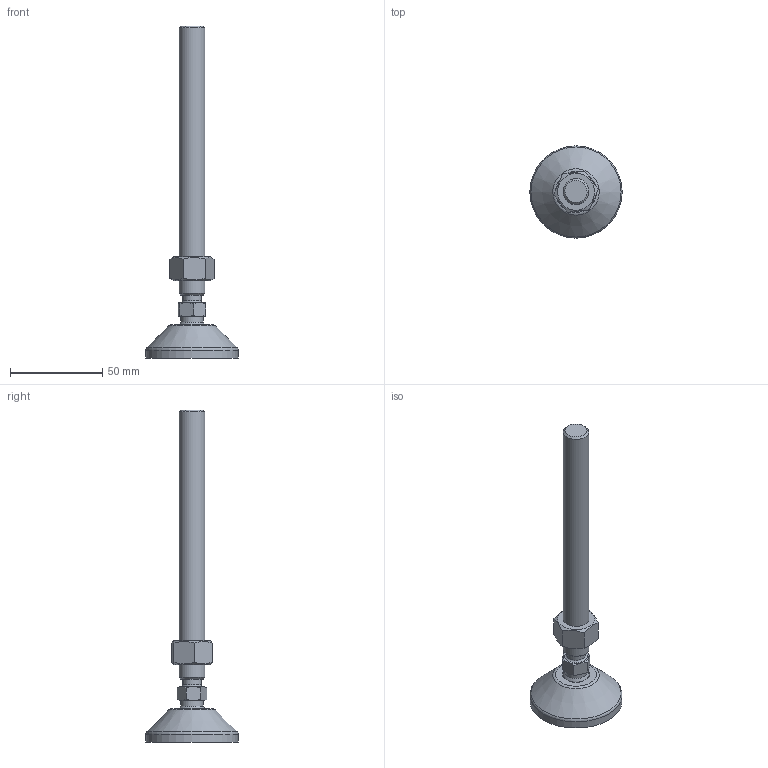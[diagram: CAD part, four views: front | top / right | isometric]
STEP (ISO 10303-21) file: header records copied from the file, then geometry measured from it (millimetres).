
FILE_DESCRIPTION(('STEP AP203'), '1');
FILE_NAME('栖闉罻', '', ('UNSPECIFIED'), ('UNSPECIFIED'), 'C3D Converter', 'C3D Toolkit', '');
FILE_SCHEMA(('CONFIG_CONTROL_DESIGN'));
Length unit declared in the file: millimetre
Products named in the file (4): A00015.1050; A00020.114150
Assembly tree (3 placements, depth 3):
  (unnamed)
    A00015.1050
    A00020.114150
      (unnamed)
Bounding box: 50 x 50 x 180.01 mm (x, y, z)
Volume: 44738.9 mm3; surface area: 17468.7 mm2
Topology: 3 solids, 3 shells, 189 faces, 500 edges, 330 vertices
Faces by surface type: plane 87, cylinder 50, torus 30, cone 20, sphere 2
Full cylindrical faces by diameter (mm): 4 x8, 10.2 x1, 11.835 x1, 12 x1, 14 x1, 14.3 x1, 15 x2, 15.5 x1, 39 x1, 50 x1
Entity records: 9859 total; most frequent: CARTESIAN_POINT 3591, DIRECTION 956, ORIENTED_EDGE 930, EDGE_CURVE 465, AXIS2_PLACEMENT_3D 400, VERTEX_POINT 329, EDGE_LOOP 238, CIRCLE 207
